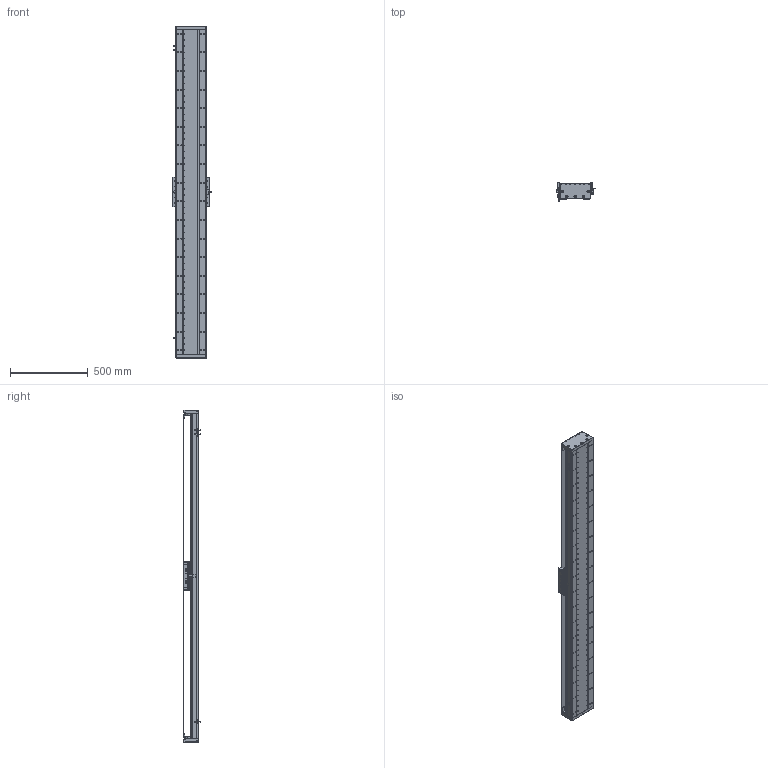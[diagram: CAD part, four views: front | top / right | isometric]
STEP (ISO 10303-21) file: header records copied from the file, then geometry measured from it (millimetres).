
FILE_DESCRIPTION (( 'STEP AP203' ), '1' );
FILE_NAME ('DA-C195-C2-T1860-C010-0.2 眻盄萇儂.STEP', '2025-08-15T01:08:51', ( '' ), ( '' ), 'SwSTEP 2.0', 'SolidWorks 2019', '' );
FILE_SCHEMA (( 'CONFIG_CONTROL_DESIGN' ));
Length unit declared in the file: millimetre
Products named in the file (15): DA195詩湍菜輸; MS200 棠掑喜S315-T1740; LMT黍杅芛; DA195詩湍裔啣; DA-C195-C2-T1860-C010-0.2 眻盄萇儂; 葩璃 DA95-GT-T-00; DA165-GYP-00 光电感应片(默认); IU-CU195-L-00 菁釱(L2100); DA95-HXJ-00 遣喳砎蝶; PM-T45ㄗ侂狟ㄘ; DA195詩湍郪璃; DA195詩湍嶺輸; DA-C195-GD-DB-H-00 傷啣; IU-CU195-L 菁釱絳寢; CU195-C2賑輸-俋楷
Assembly tree (29 placements, depth 3):
  DA-C195-C2-T1860-C010-0.2 眻盄萇儂
    DA195詩湍郪璃
      DA195詩湍菜輸  x2
      DA195詩湍裔啣
      DA195詩湍嶺輸  x2
      DA95-HXJ-00 遣喳砎蝶  x8
      DA-C195-GD-DB-H-00 傷啣  x2
    IU-CU195-L 菁釱絳寢
      IU-CU195-L-00 菁釱(L2100)
      葩璃 DA95-GT-T-00  x4
    LMT黍杅芛
    MS200 棠掑喜S315-T1740
    PM-T45ㄗ侂狟ㄘ  x3
    DA165-GYP-00 光电感应片(默认)
    CU195-C2賑輸-俋楷
Bounding box: 248 x 115.45 x 2140 mm (x, y, z)
Volume: 12630298.8 mm3; surface area: 3705682.6 mm2
Topology: 66 solids, 130 shells, 4194 faces, 11515 edges, 7223 vertices
Faces by surface type: cylinder 2183, plane 1393, cone 530, torus 52, sphere 36
Entity records: 130557 total; most frequent: CARTESIAN_POINT 34210, ORIENTED_EDGE 19914, DIRECTION 19536, EDGE_CURVE 9957, AXIS2_PLACEMENT_3D 7329, VERTEX_POINT 6425, LINE 4878, VECTOR 4878
